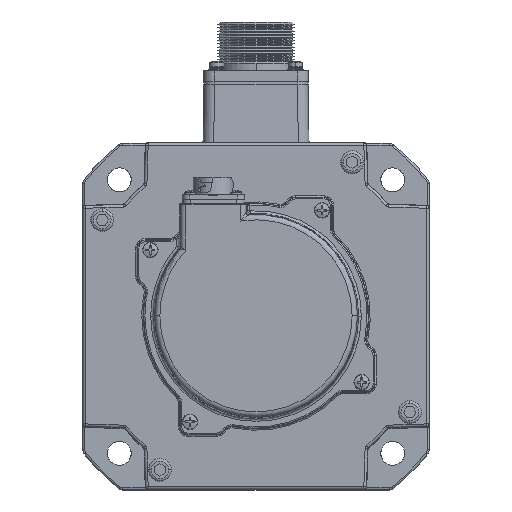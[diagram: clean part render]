
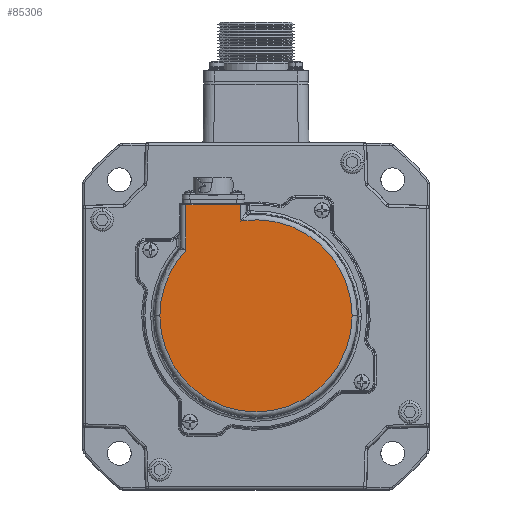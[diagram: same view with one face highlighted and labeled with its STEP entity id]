
A CAD part, top view. The second image highlights one B-rep face of the part: STEP entity #85306.
In plain terms, the highlighted planar face has unit normal (0, 0, 1).
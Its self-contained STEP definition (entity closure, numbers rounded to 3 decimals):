
#700 = AXIS2_PLACEMENT_3D ( 'NONE', #41510, #108292, #51095 ) ;
#1009 = CARTESIAN_POINT ( 'NONE',  ( -14.587, -56.273, -30.037 ) ) ;
#4709 = EDGE_CURVE ( 'NONE', #69469, #34378, #26480, .T. ) ;
#5563 = DIRECTION ( 'NONE',  ( -1., 0., 0. ) ) ;
#8850 = CIRCLE ( 'NONE', #51801, 36.035 ) ;
#8897 = VERTEX_POINT ( 'NONE', #114245 ) ;
#14757 = LINE ( 'NONE', #103650, #40194 ) ;
#24433 = PLANE ( 'NONE',  #95763 ) ;
#25458 = CARTESIAN_POINT ( 'NONE',  ( -14.587, -20.695, -30.037 ) ) ;
#26480 = LINE ( 'NONE', #1009, #32479 ) ;
#26842 = VERTEX_POINT ( 'NONE', #35141 ) ;
#27995 = CIRCLE ( 'NONE', #54392, 36.035 ) ;
#30616 = EDGE_CURVE ( 'NONE', #26842, #69469, #115697, .T. ) ;
#31997 = EDGE_LOOP ( 'NONE', ( #94653, #91577, #36402, #112451, #63815, #78605 ) ) ;
#32479 = VECTOR ( 'NONE', #67840, 1000. ) ;
#33820 = CARTESIAN_POINT ( 'NONE',  ( -8.872, -14.523, -30.037 ) ) ;
#34378 = VERTEX_POINT ( 'NONE', #35053 ) ;
#35053 = CARTESIAN_POINT ( 'NONE',  ( -14.587, -14.523, -30.037 ) ) ;
#35141 = CARTESIAN_POINT ( 'NONE',  ( 27.163, -56.273, -30.037 ) ) ;
#35995 = CARTESIAN_POINT ( 'NONE',  ( -8.872, -56.273, -30.037 ) ) ;
#36402 = ORIENTED_EDGE ( 'NONE', *, *, #45656, .T. ) ;
#39553 = CARTESIAN_POINT ( 'NONE',  ( -35.157, -14.523, -30.037 ) ) ;
#40194 = VECTOR ( 'NONE', #46084, 1000. ) ;
#41510 = CARTESIAN_POINT ( 'NONE',  ( -8.872, -56.273, -30.037 ) ) ;
#41710 = LINE ( 'NONE', #33820, #114964 ) ;
#45523 = DIRECTION ( 'NONE',  ( -1., 0., 0. ) ) ;
#45656 = EDGE_CURVE ( 'NONE', #92369, #77301, #14757, .T. ) ;
#46084 = DIRECTION ( 'NONE',  ( 0., -1., 0. ) ) ;
#48528 = DIRECTION ( 'NONE',  ( 0., 0., 1. ) ) ;
#51095 = DIRECTION ( 'NONE',  ( -1., 0., 0. ) ) ;
#51801 = AXIS2_PLACEMENT_3D ( 'NONE', #35995, #102698, #45523 ) ;
#54392 = AXIS2_PLACEMENT_3D ( 'NONE', #105755, #48528, #115429 ) ;
#62832 = DIRECTION ( 'NONE',  ( 0., 0., 1. ) ) ;
#63815 = ORIENTED_EDGE ( 'NONE', *, *, #96140, .T. ) ;
#67840 = DIRECTION ( 'NONE',  ( 0., 1., 0. ) ) ;
#69469 = VERTEX_POINT ( 'NONE', #25458 ) ;
#71796 = DIRECTION ( 'NONE',  ( -1., 0., 0. ) ) ;
#77301 = VERTEX_POINT ( 'NONE', #111371 ) ;
#78605 = ORIENTED_EDGE ( 'NONE', *, *, #30616, .T. ) ;
#85306 = ADVANCED_FACE ( 'NONE', ( #89789 ), #24433, .T. ) ;
#88137 = EDGE_CURVE ( 'NONE', #77301, #8897, #27995, .T. ) ;
#89789 = FACE_OUTER_BOUND ( 'NONE', #31997, .T. ) ;
#91577 = ORIENTED_EDGE ( 'NONE', *, *, #105406, .T. ) ;
#92369 = VERTEX_POINT ( 'NONE', #39553 ) ;
#94653 = ORIENTED_EDGE ( 'NONE', *, *, #4709, .T. ) ;
#95763 = AXIS2_PLACEMENT_3D ( 'NONE', #120038, #62832, #5563 ) ;
#96140 = EDGE_CURVE ( 'NONE', #8897, #26842, #8850, .T. ) ;
#102698 = DIRECTION ( 'NONE',  ( 0., 0., 1. ) ) ;
#103650 = CARTESIAN_POINT ( 'NONE',  ( -35.157, -56.273, -30.037 ) ) ;
#105406 = EDGE_CURVE ( 'NONE', #34378, #92369, #41710, .T. ) ;
#105755 = CARTESIAN_POINT ( 'NONE',  ( -8.872, -56.273, -30.037 ) ) ;
#108292 = DIRECTION ( 'NONE',  ( 0., 0., 1. ) ) ;
#111371 = CARTESIAN_POINT ( 'NONE',  ( -35.157, -31.624, -30.037 ) ) ;
#112451 = ORIENTED_EDGE ( 'NONE', *, *, #88137, .T. ) ;
#114245 = CARTESIAN_POINT ( 'NONE',  ( -44.907, -56.273, -30.037 ) ) ;
#114964 = VECTOR ( 'NONE', #71796, 1000. ) ;
#115429 = DIRECTION ( 'NONE',  ( -1., 0., 0. ) ) ;
#115697 = CIRCLE ( 'NONE', #700, 36.035 ) ;
#120038 = CARTESIAN_POINT ( 'NONE',  ( -8.872, -56.273, -30.037 ) ) ;
